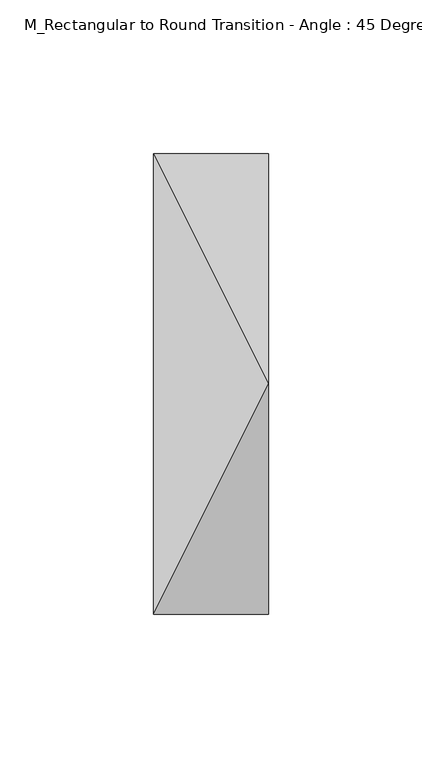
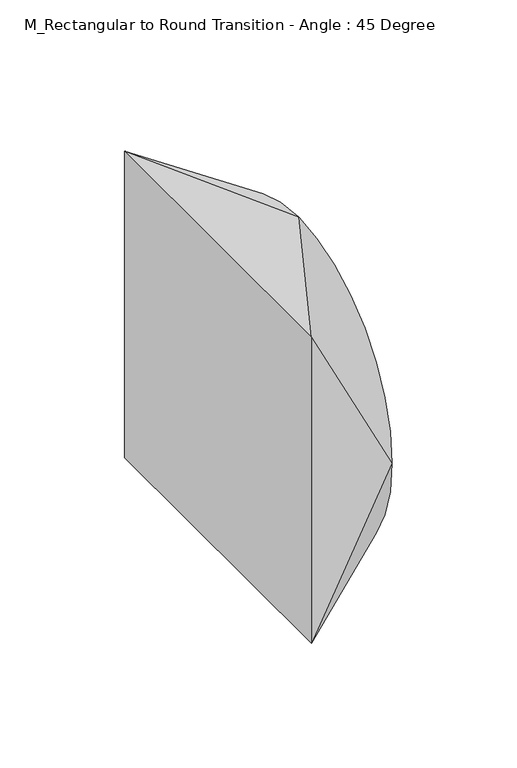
"""IFC4 building model written with IfcOpenShell, lengths in millimetres: duct fitting geometry, M_Rectangular to Round Transition - Angle : 45 Degree."""

from ifc_helpers import new_model, si_unit, frame, origin, place, context, project, spatial, circle_curve, source, transform, mapped, element, save
from ifc_brep_helpers import plane_surface, spline_surface, advanced_brep


def m_rectangular_to_round_transition_angle_45_degree_2860c485(model_context):
    return source(origin(), model_context, "Body", "AdvancedBrep", [
        advanced_brep(
        [(0.0, -75.0, -75.0), (0.0, -75.0, 75.0), (0.0, 75.0, 75.0), (0.0, 75.0, -75.0), (37.5, -75.0, 0.0), (37.5, 0.0, -75.0), (37.5, 75.0, 0.0), (37.5, 0.0, 75.0)],
        [
            (0, 1),
            (1, 2),
            (2, 3),
            (3, 0),
            (4, 5, circle_curve(frame((37.5, 0.0, 0.0), z_axis=(1.0, 0.0, 0.0), x_axis=(0.0, -1.0, 0.0)), 75.0)),
            (5, 6, circle_curve(frame((37.5, 0.0, 0.0), z_axis=(1.0, 0.0, 0.0), x_axis=(0.0, -1.0, 0.0)), 75.0)),
            (6, 7, circle_curve(frame((37.5, 0.0, 0.0), z_axis=(1.0, 0.0, 0.0), x_axis=(0.0, -1.0, 0.0)), 75.0)),
            (7, 4, circle_curve(frame((37.5, 0.0, 0.0), z_axis=(1.0, 0.0, 0.0), x_axis=(0.0, -1.0, 0.0)), 75.0)),
            (0, 4),
            (4, 1),
            (7, 1),
            (7, 2),
            (6, 2),
            (6, 3),
            (5, 3),
            (5, 0),
        ],
        [
            plane_surface(frame((0.0, 0.0, 0.0), z_axis=(-1.0, 0.0, 0.0), x_axis=(0.0, 1.0, 0.0))),
            plane_surface(frame((37.5, 0.0, 0.0), z_axis=(1.0, 0.0, 0.0), x_axis=(0.0, 1.0, 0.0))),
            plane_surface(frame((37.5, -75.0, 0.0), z_axis=(0.0, -1.0, 0.0), x_axis=(0.0, 0.0, 1.0))),
            spline_surface(2, 1, [[(37.5, -75.0, 0.0), (0.0, -75.0, 75.0)], [(37.5, -75.0, 75.0), (0.0, -75.0, 75.0)], [(37.5, 0.0, 75.0), (0.0, -75.0, 75.0)]], [3, 3], [2, 2], [0.0, 1.0], [0.0, 1.0], weights=[[1.0, 1.0], [0.7071067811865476, 0.7071067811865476], [1.0, 1.0]]),
            plane_surface(frame((37.5, 0.0, 75.0), z_axis=(0.0, 0.0, 1.0), x_axis=(0.0, 1.0, 0.0))),
            spline_surface(2, 1, [[(37.5, 0.0, 75.0), (0.0, 75.0, 75.0)], [(37.5, 75.0, 75.0), (0.0, 75.0, 75.0)], [(37.5, 75.0, 0.0), (0.0, 75.0, 75.0)]], [3, 3], [2, 2], [0.0, 1.0], [0.0, 1.0], weights=[[1.0, 1.0], [0.7071067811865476, 0.7071067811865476], [1.0, 1.0]]),
            plane_surface(frame((37.5, 75.0, 0.0), z_axis=(0.0, 1.0, 0.0), x_axis=(0.0, 0.0, -1.0))),
            spline_surface(2, 1, [[(37.5, 75.0, 0.0), (0.0, 75.0, -75.0)], [(37.5, 75.0, -75.0), (0.0, 75.0, -75.0)], [(37.5, 0.0, -75.0), (0.0, 75.0, -75.0)]], [3, 3], [2, 2], [0.0, 1.0], [0.0, 1.0], weights=[[1.0, 1.0], [0.7071067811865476, 0.7071067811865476], [1.0, 1.0]]),
            plane_surface(frame((37.5, 0.0, -75.0), z_axis=(0.0, 0.0, -1.0), x_axis=(0.0, -1.0, 0.0))),
            spline_surface(2, 1, [[(37.5, 0.0, -75.0), (0.0, -75.0, -75.0)], [(37.5, -75.0, -75.0), (0.0, -75.0, -75.0)], [(37.5, -75.0, 0.0), (0.0, -75.0, -75.0)]], [3, 3], [2, 2], [0.0, 1.0], [0.0, 1.0], weights=[[1.0, 1.0], [0.7071067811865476, 0.7071067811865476], [1.0, 1.0]]),
        ],
        [
            (0, [[1, 2, 3, 4]]),
            (1, [[5, 6, 7, 8]]),
            (2, [[-1, 9, 10]]),
            (3, [[-8, 11, -10]]),
            (4, [[-2, -11, 12]]),
            (5, [[-7, 13, -12]]),
            (6, [[-3, -13, 14]]),
            (7, [[-6, 15, -14]]),
            (8, [[-4, -15, 16]]),
            (9, [[-5, -9, -16]]),
        ],
    ),
        advanced_brep(
        [(0.0, -75.0, -75.0), (0.0, -75.0, 75.0), (0.0, 75.0, 75.0), (0.0, 75.0, -75.0), (37.5, -75.0, 0.0), (37.5, 0.0, -75.0), (37.5, 75.0, 0.0), (37.5, 0.0, 75.0)],
        [
            (0, 1),
            (1, 2),
            (2, 3),
            (3, 0),
            (4, 5, circle_curve(frame((37.5, 0.0, 0.0), z_axis=(1.0, 0.0, 0.0), x_axis=(0.0, -1.0, 0.0)), 75.0)),
            (5, 6, circle_curve(frame((37.5, 0.0, 0.0), z_axis=(1.0, 0.0, 0.0), x_axis=(0.0, -1.0, 0.0)), 75.0)),
            (6, 7, circle_curve(frame((37.5, 0.0, 0.0), z_axis=(1.0, 0.0, 0.0), x_axis=(0.0, -1.0, 0.0)), 75.0)),
            (7, 4, circle_curve(frame((37.5, 0.0, 0.0), z_axis=(1.0, 0.0, 0.0), x_axis=(0.0, -1.0, 0.0)), 75.0)),
            (0, 4),
            (4, 1),
            (7, 1),
            (7, 2),
            (6, 2),
            (6, 3),
            (5, 3),
            (5, 0),
        ],
        [
            plane_surface(frame((0.0, 0.0, 0.0), z_axis=(-1.0, 0.0, 0.0), x_axis=(0.0, 1.0, 0.0))),
            plane_surface(frame((37.5, 0.0, 0.0), z_axis=(1.0, 0.0, 0.0), x_axis=(0.0, 1.0, 0.0))),
            plane_surface(frame((37.5, -75.0, 0.0), z_axis=(0.0, -1.0, 0.0), x_axis=(0.0, 0.0, 1.0))),
            spline_surface(2, 1, [[(37.5, -75.0, 0.0), (0.0, -75.0, 75.0)], [(37.5, -75.0, 75.0), (0.0, -75.0, 75.0)], [(37.5, 0.0, 75.0), (0.0, -75.0, 75.0)]], [3, 3], [2, 2], [0.0, 1.0], [0.0, 1.0], weights=[[1.0, 1.0], [0.7071067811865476, 0.7071067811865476], [1.0, 1.0]]),
            plane_surface(frame((37.5, 0.0, 75.0), z_axis=(0.0, 0.0, 1.0), x_axis=(0.0, 1.0, 0.0))),
            spline_surface(2, 1, [[(37.5, 0.0, 75.0), (0.0, 75.0, 75.0)], [(37.5, 75.0, 75.0), (0.0, 75.0, 75.0)], [(37.5, 75.0, 0.0), (0.0, 75.0, 75.0)]], [3, 3], [2, 2], [0.0, 1.0], [0.0, 1.0], weights=[[1.0, 1.0], [0.7071067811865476, 0.7071067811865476], [1.0, 1.0]]),
            plane_surface(frame((37.5, 75.0, 0.0), z_axis=(0.0, 1.0, 0.0), x_axis=(0.0, 0.0, -1.0))),
            spline_surface(2, 1, [[(37.5, 75.0, 0.0), (0.0, 75.0, -75.0)], [(37.5, 75.0, -75.0), (0.0, 75.0, -75.0)], [(37.5, 0.0, -75.0), (0.0, 75.0, -75.0)]], [3, 3], [2, 2], [0.0, 1.0], [0.0, 1.0], weights=[[1.0, 1.0], [0.7071067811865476, 0.7071067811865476], [1.0, 1.0]]),
            plane_surface(frame((37.5, 0.0, -75.0), z_axis=(0.0, 0.0, -1.0), x_axis=(0.0, -1.0, 0.0))),
            spline_surface(2, 1, [[(37.5, 0.0, -75.0), (0.0, -75.0, -75.0)], [(37.5, -75.0, -75.0), (0.0, -75.0, -75.0)], [(37.5, -75.0, 0.0), (0.0, -75.0, -75.0)]], [3, 3], [2, 2], [0.0, 1.0], [0.0, 1.0], weights=[[1.0, 1.0], [0.7071067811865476, 0.7071067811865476], [1.0, 1.0]]),
        ],
        [
            (0, [[1, 2, 3, 4]]),
            (1, [[5, 6, 7, 8]]),
            (2, [[-1, 9, 10]]),
            (3, [[-8, 11, -10]]),
            (4, [[-2, -11, 12]]),
            (5, [[-7, 13, -12]]),
            (6, [[-3, -13, 14]]),
            (7, [[-6, 15, -14]]),
            (8, [[-4, -15, 16]]),
            (9, [[-5, -9, -16]]),
        ],
    ),
        advanced_brep(
        [(37.5, 0.0, 75.0), (37.5, -75.0, 0.0), (37.5, 0.0, -75.0), (37.5, 75.0, 0.0), (0.0, -75.0, 75.0), (0.0, 75.0, 75.0), (0.0, 75.0, -75.0), (0.0, -75.0, -75.0)],
        [
            (0, 1, circle_curve(frame((37.5, 0.0, 0.0), z_axis=(1.0, 0.0, 0.0), x_axis=(0.0, 1.0, 0.0)), 75.0)),
            (1, 2, circle_curve(frame((37.5, 0.0, 0.0), z_axis=(1.0, 0.0, 0.0), x_axis=(0.0, 1.0, 0.0)), 75.0)),
            (2, 3, circle_curve(frame((37.5, 0.0, 0.0), z_axis=(1.0, 0.0, 0.0), x_axis=(0.0, 1.0, 0.0)), 75.0)),
            (3, 0, circle_curve(frame((37.5, 0.0, 0.0), z_axis=(1.0, 0.0, 0.0), x_axis=(0.0, 1.0, 0.0)), 75.0)),
            (4, 5),
            (5, 6),
            (6, 7),
            (7, 4),
            (0, 4),
            (4, 1),
            (7, 1),
            (7, 2),
            (6, 2),
            (6, 3),
            (5, 3),
            (5, 0),
        ],
        [
            plane_surface(frame((37.5, 0.0, 0.0), z_axis=(1.0, 0.0, 0.0), x_axis=(0.0, 0.0, -1.0))),
            plane_surface(frame((0.0, 0.0, 0.0), z_axis=(-1.0, 0.0, 0.0), x_axis=(0.0, 0.0, -1.0))),
            spline_surface(2, 1, [[(0.0, -75.0, 75.0), (37.5, 0.0, 75.0)], [(0.0, -75.0, 75.0), (37.5, -75.0, 75.0)], [(0.0, -75.0, 75.0), (37.5, -75.0, 0.0)]], [3, 3], [2, 2], [0.0, 1.0], [0.0, 1.0], weights=[[1.0, 1.0], [0.7071067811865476, 0.7071067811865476], [1.0, 1.0]]),
            plane_surface(frame((0.0, -75.0, 0.0), z_axis=(0.0, -1.0, 0.0), x_axis=(0.0, 0.0, -1.0))),
            spline_surface(2, 1, [[(0.0, -75.0, -75.0), (37.5, -75.0, 0.0)], [(0.0, -75.0, -75.0), (37.5, -75.0, -75.0)], [(0.0, -75.0, -75.0), (37.5, 0.0, -75.0)]], [3, 3], [2, 2], [0.0, 1.0], [0.0, 1.0], weights=[[1.0, 1.0], [0.7071067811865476, 0.7071067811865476], [1.0, 1.0]]),
            plane_surface(frame((0.0, 0.0, -75.0), z_axis=(0.0, 0.0, -1.0), x_axis=(0.0, 1.0, 0.0))),
            spline_surface(2, 1, [[(0.0, 75.0, -75.0), (37.5, 0.0, -75.0)], [(0.0, 75.0, -75.0), (37.5, 75.0, -75.0)], [(0.0, 75.0, -75.0), (37.5, 75.0, 0.0)]], [3, 3], [2, 2], [0.0, 1.0], [0.0, 1.0], weights=[[1.0, 1.0], [0.7071067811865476, 0.7071067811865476], [1.0, 1.0]]),
            plane_surface(frame((0.0, 75.0, 0.0), z_axis=(0.0, 1.0, 0.0), x_axis=(0.0, 0.0, 1.0))),
            spline_surface(2, 1, [[(0.0, 75.0, 75.0), (37.5, 75.0, 0.0)], [(0.0, 75.0, 75.0), (37.5, 75.0, 75.0)], [(0.0, 75.0, 75.0), (37.5, 0.0, 75.0)]], [3, 3], [2, 2], [0.0, 1.0], [0.0, 1.0], weights=[[1.0, 1.0], [0.7071067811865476, 0.7071067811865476], [1.0, 1.0]]),
            plane_surface(frame((0.0, 0.0, 75.0), z_axis=(0.0, 0.0, 1.0), x_axis=(0.0, -1.0, 0.0))),
        ],
        [
            (0, [[1, 2, 3, 4]]),
            (1, [[5, 6, 7, 8]]),
            (2, [[-1, 9, 10]]),
            (3, [[-8, 11, -10]]),
            (4, [[-2, -11, 12]]),
            (5, [[-7, 13, -12]]),
            (6, [[-3, -13, 14]]),
            (7, [[-6, 15, -14]]),
            (8, [[-4, -15, 16]]),
            (9, [[-5, -9, -16]]),
        ],
    ),
    ])


if __name__ == "__main__":
    model = new_model("IFC4")
    model_context = context("Model", 3, world=origin())
    ifc_project = project(units=[si_unit("LENGTHUNIT", "METRE", prefix="MILLI")], contexts=[model_context])
    site = spatial("IfcSite", under=ifc_project)
    building = spatial("IfcBuilding", under=site)
    placement = place(None, origin())
    m_rectangular_to_round_transition_angle_45_degree_shape = m_rectangular_to_round_transition_angle_45_degree_2860c485(model_context)
    element("IfcDuctFitting", 1, ObjectType="M_Rectangular to Round Transition - Angle : 45 Degree", at=placement, inside=building, context=model_context, shape_type="MappedRepresentation", body=[
        mapped(m_rectangular_to_round_transition_angle_45_degree_shape, transform((0.0, 0.0, 0.0), x_axis=(1.0, 0.0, 0.0), y_axis=(0.0, 1.0, 0.0), z_axis=(0.0, 0.0, 1.0))),
    ])
    save(model, "model.ifc")
